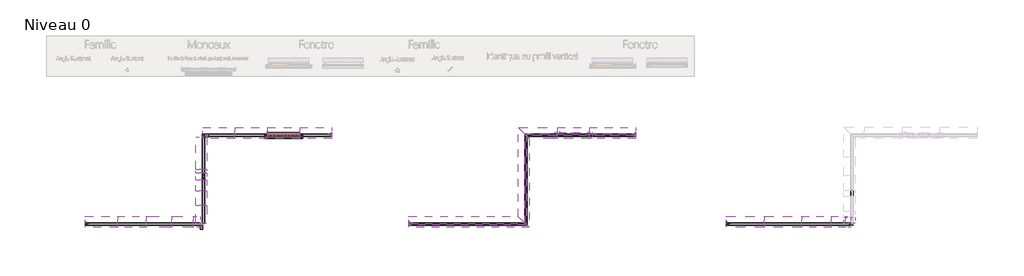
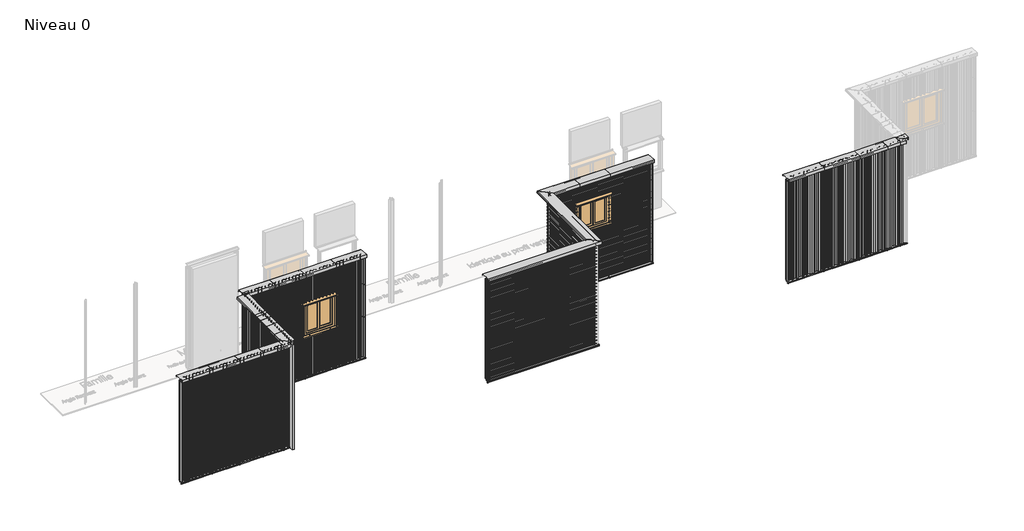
# One storey, part 1 of 11: 67 members, 42 plates, 2 doors.
"""IFC4 building model written with IfcOpenShell, lengths in millimetres."""

from ifc_helpers import new_model, si_unit, origin, place, context, project, spatial, transform, mapped, element, save
from components import door_f6b7c099, door_ad10fda7, meneau_rectangulaire_2bebc640, meneau_rectangulaire_74061857, meneau_rectangulaire_0b3fcaf2, meneau_rectangulaire_f8511e98, meneau_rectangulaire_234a4937, meneau_rectangulaire_9a4c4fa2, meneau_rectangulaire_74fe4901, meneau_rectangulaire_228527b8, meneau_rectangulaire_81b4417d, meneau_rectangulaire_4563ac0a, meneau_rectangulaire_b0ad7b53, meneau_rectangulaire_1c964cb5, meneau_rectangulaire_b7cbe6b9, meneau_rectangulaire_bas_de_facade_284a9909, meneau_rectangulaire_bas_de_facade_a4c04e45, meneau_rectangulaire_bas_de_facade_ff95f192, meneau_rectangulaire_bas_de_facade_054009f9, meneau_rectangulaire_bas_de_facade_311af115, meneau_rectangulaire_bas_de_facade_9cba7d50, meneau_rectangulaire_bas_de_facade_59c8f768, meneau_rectangulaire_bas_de_facade_44356cba, meneau_rectangulaire_bas_de_facade_2cf6ae8b, meneau_rectangulaire_bas_de_facade_72f859a9, meneau_rectangulaire_bas_de_facade_c1fa5701, meneau_rectangulaire_bas_de_facade_98fc15e4, meneau_rectangulaire_bas_de_facade_a9f17a1e, meneau_rectangulaire_bas_de_facade_e63c7c5e, meneau_rectangulaire_bas_de_facade_b4e37a96, meneau_rectangulaire_bas_de_facade_f80a6144, meneau_rectangulaire_bas_de_facade_e72d7a95, meneau_rectangulaire_bas_de_facade_734854f8, meneau_rectangulaire_bas_de_facade_7ae9e72d, meneau_rectangulaire_bas_de_facade_b41b154c, meneau_rectangulaire_bas_de_facade_d3af828c, meneau_rectangulaire_bas_de_facade_46bd9526, meneau_rectangulaire_bas_de_facade_17f7cb37, meneau_rectangulaire_bas_de_facade_3b4feb22, meneau_rectangulaire_bas_de_facade_ae91a431, meneau_rectangulaire_bas_de_facade_f12c9721, meneau_rectangulaire_haut_de_facade_66ae83b7, meneau_rectangulaire_haut_de_facade_281e57f9, meneau_rectangulaire_haut_de_facade_87188652, meneau_rectangulaire_haut_de_facade_c783611b, meneau_rectangulaire_haut_de_facade_64e329c6, meneau_rectangulaire_haut_de_facade_83064606, meneau_rectangulaire_haut_de_facade_1aad9aea, meneau_rectangulaire_haut_de_facade_f870d6d4, meneau_rectangulaire_haut_de_facade_93e36293, meneau_rectangulaire_haut_de_facade_76262e20, meneau_rectangulaire_haut_de_facade_b5049156, meneau_rectangulaire_haut_de_facade_82e9be84, meneau_rectangulaire_haut_de_facade_4f6a63c8, meneau_rectangulaire_haut_de_facade_6f5ed1bf, meneau_rectangulaire_haut_de_facade_54da1b67, meneau_rectangulaire_haut_de_facade_0304e728, meneau_rectangulaire_haut_de_facade_c206d6dd, meneau_rectangulaire_haut_de_facade_d7324de5, meneau_rectangulaire_haut_de_facade_496d0ec1, meneau_rectangulaire_haut_de_facade_f00e65dc, meneau_rectangulaire_haut_de_facade_56239176, meneau_rectangulaire_haut_de_facade_942a833c, meneau_rectangulaire_haut_de_facade_ec6043b4, plate_0610edab, plate_9b340332, plate_57fa1317, plate_ab0b9b8b, plate_88216186, plate_702065da, plate_73b56dba, plate_2df18c28, plate_fa579688, plate_f2230e5b, plate_4fb3facb, plate_f928da12, plate_37e8111f, plate_b97943db, plate_8fd588ca, plate_c28b94aa, plate_0c2ce887, plate_6dec1907, plate_eb89862b, plate_4afa8736, plate_47d247f7, plate_cc2e4fbd, plate_bd072c15, plate_e1f37148, plate_14de64b7, plate_46ab9c88, plate_14376bf1, plate_61971956, plate_02203c13, plate_2c54484f, plate_c95ae0e2, plate_9ac5e7aa, plate_9f5fbec9, plate_852c840c, vide_9c2dc285, vide_b6a19ed5

model = new_model("IFC4")

# Units and contexts
model_context = context("Model", 3, world=origin())
ifc_project = project(units=[si_unit("LENGTHUNIT", "METRE", prefix="MILLI")], contexts=[model_context])

# Site, building, storey
site = spatial("IfcSite", under=ifc_project)
building = spatial("IfcBuilding", under=site)
storey = spatial("IfcBuildingStorey", under=building, Name="Niveau 0", Elevation=0.0)

# Doors
placement = place(None, origin())
door_shape = door_f6b7c099(model_context)
element("IfcDoor", 1, ObjectType="Fenetre pour Tenda V : Fenetre pour Tenda V", at=placement, inside=storey, context=model_context, shape_type="MappedRepresentation", body=[
    mapped(door_shape, transform((5862.5542845, -16885.8319197, 1160.0), x_axis=(1.0, 0.0, 0.0), y_axis=(0.0, 1.0, 0.0), z_axis=(0.0, 0.0, 1.0))),
])
door_2_shape = door_ad10fda7(model_context)
element("IfcDoor", 2, ObjectType="Fenetre pour Tenda Horizontal : Fenetre pour Tenda H", at=placement, inside=storey, context=model_context, shape_type="MappedRepresentation", body=[
    mapped(door_2_shape, transform((13017.2416384, -16885.8319197, 1513.0), x_axis=(-1.0, 0.0, 0.0), y_axis=(0.0, -1.0, 0.0), z_axis=(0.0, 0.0, 1.0))),
])

# Members
meneau_rectangulaire_shape = meneau_rectangulaire_2bebc640(model_context)
element("IfcMember", 3, ObjectType="Meneau rectangulaire : Jonction contre mur Droite V", at=placement, inside=storey, context=model_context, shape_type="MappedRepresentation", body=[
    mapped(meneau_rectangulaire_shape, transform((963.0369394, -19085.8319197, 2819.0), x_axis=(-1.0, 0.0, 0.0), y_axis=(0.0, -1.0, 0.0), z_axis=(0.0, 0.0, 1.0))),
])
meneau_rectangulaire_2_shape = meneau_rectangulaire_74061857(model_context)
element("IfcMember", 4, ObjectType="Meneau rectangulaire : Jonction contre mur Gauche V", at=placement, inside=storey, context=model_context, shape_type="MappedRepresentation", body=[
    mapped(meneau_rectangulaire_2_shape, transform((7053.4302493, -16885.8319197, 2060.0), x_axis=(1.0, 0.0, 0.0), y_axis=(0.0, -1.0, 0.0), z_axis=(0.0, 0.0, -1.0))),
])
meneau_rectangulaire_3_shape = meneau_rectangulaire_0b3fcaf2(model_context)
element("IfcMember", 5, ObjectType="Meneau rectangulaire : Jonction contre mur Droite H", at=placement, inside=storey, context=model_context, shape_type="MappedRepresentation", body=[
    mapped(meneau_rectangulaire_3_shape, transform((14557.2416384, -16885.8319197, 2314.0), x_axis=(1.0, 0.0, 0.0), y_axis=(0.0, 1.0, 0.0), z_axis=(0.0, 0.0, 1.0))),
])
element("IfcMember", 6, ObjectType="Meneau rectangulaire : Jonction contre mur Droite H", at=placement, inside=storey, context=model_context, shape_type="MappedRepresentation", body=[
    mapped(meneau_rectangulaire_3_shape, transform((14557.2416384, -16885.8319197, 1513.0), x_axis=(1.0, 0.0, 0.0), y_axis=(0.0, 1.0, 0.0), z_axis=(0.0, 0.0, 1.0))),
])
meneau_rectangulaire_4_shape = meneau_rectangulaire_f8511e98(model_context)
element("IfcMember", 7, ObjectType="Meneau rectangulaire : Jonction contre mur Gauche V", at=placement, inside=storey, context=model_context, shape_type="MappedRepresentation", body=[
    mapped(meneau_rectangulaire_4_shape, transform((7053.4302493, -16885.8319197, 57.8548383), x_axis=(1.0, 0.0, 0.0), y_axis=(0.0, -1.0, 0.0), z_axis=(0.0, 0.0, -1.0))),
])
meneau_rectangulaire_5_shape = meneau_rectangulaire_234a4937(model_context)
element("IfcMember", 8, ObjectType="Meneau rectangulaire : Jonction contre mur Gauche V", at=placement, inside=storey, context=model_context, shape_type="MappedRepresentation", body=[
    mapped(meneau_rectangulaire_5_shape, transform((7053.4302493, -16885.8319197, 1160.0), x_axis=(1.0, 0.0, 0.0), y_axis=(0.0, -1.0, 0.0), z_axis=(0.0, 0.0, -1.0))),
])
meneau_rectangulaire_6_shape = meneau_rectangulaire_9a4c4fa2(model_context)
element("IfcMember", 9, ObjectType="Meneau rectangulaire : Jonction contre mur Gauche V", at=placement, inside=storey, context=model_context, shape_type="MappedRepresentation", body=[
    mapped(meneau_rectangulaire_6_shape, transform((16799.5725557, -19085.8319197, 57.8548383), x_axis=(-1.0, 0.0, 0.0), y_axis=(0.0, 1.0, 0.0), z_axis=(0.0, 0.0, -1.0))),
])
meneau_rectangulaire_7_shape = meneau_rectangulaire_74fe4901(model_context)
element("IfcMember", 10, ObjectType="Meneau rectangulaire : Jonction contre mur Gauche H", at=placement, inside=storey, context=model_context, shape_type="MappedRepresentation", body=[
    mapped(meneau_rectangulaire_7_shape, transform((8959.5725557, -19085.8319197, 1513.0), x_axis=(-1.0, 0.0, 0.0), y_axis=(0.0, 1.0, 0.0), z_axis=(0.0, 0.0, -1.0))),
])
meneau_rectangulaire_8_shape = meneau_rectangulaire_228527b8(model_context)
element("IfcMember", 11, ObjectType="Meneau rectangulaire : Jonction contre mur Gauche H", at=placement, inside=storey, context=model_context, shape_type="MappedRepresentation", body=[
    mapped(meneau_rectangulaire_8_shape, transform((8959.5725557, -19085.8319197, 2136.0), x_axis=(-1.0, 0.0, 0.0), y_axis=(0.0, 1.0, 0.0), z_axis=(0.0, 0.0, -1.0))),
])
meneau_rectangulaire_9_shape = meneau_rectangulaire_81b4417d(model_context)
element("IfcMember", 12, ObjectType="Meneau rectangulaire : Jonction contre mur Gauche H", at=placement, inside=storey, context=model_context, shape_type="MappedRepresentation", body=[
    mapped(meneau_rectangulaire_9_shape, transform((8959.5725557, -19085.8319197, 2670.0), x_axis=(-1.0, 0.0, 0.0), y_axis=(0.0, 1.0, 0.0), z_axis=(0.0, 0.0, -1.0))),
])
meneau_rectangulaire_10_shape = meneau_rectangulaire_4563ac0a(model_context)
element("IfcMember", 13, ObjectType="Meneau rectangulaire : Jonction contre mur Gauche H", at=placement, inside=storey, context=model_context, shape_type="MappedRepresentation", body=[
    mapped(meneau_rectangulaire_10_shape, transform((8959.5725557, -19085.8319197, 801.0), x_axis=(-1.0, 0.0, 0.0), y_axis=(0.0, 1.0, 0.0), z_axis=(0.0, 0.0, -1.0))),
])
meneau_rectangulaire_11_shape = meneau_rectangulaire_b0ad7b53(model_context)
element("IfcMember", 14, ObjectType="Meneau rectangulaire : Jonction contre mur Gauche H", at=placement, inside=storey, context=model_context, shape_type="MappedRepresentation", body=[
    mapped(meneau_rectangulaire_11_shape, transform((8959.5725557, -19085.8319197, 57.8548383), x_axis=(-1.0, 0.0, 0.0), y_axis=(0.0, 1.0, 0.0), z_axis=(0.0, 0.0, -1.0))),
])
meneau_rectangulaire_12_shape = meneau_rectangulaire_1c964cb5(model_context)
element("IfcMember", 15, ObjectType="Meneau rectangulaire : Jonction contre mur Droite H", at=placement, inside=storey, context=model_context, shape_type="MappedRepresentation", body=[
    mapped(meneau_rectangulaire_12_shape, transform((14557.2416384, -16885.8319197, 712.0), x_axis=(1.0, 0.0, 0.0), y_axis=(0.0, 1.0, 0.0), z_axis=(0.0, 0.0, 1.0))),
])
meneau_rectangulaire_13_shape = meneau_rectangulaire_b7cbe6b9(model_context)
element("IfcMember", 16, ObjectType="Meneau rectangulaire : Jonction contre mur Droite H", at=placement, inside=storey, context=model_context, shape_type="MappedRepresentation", body=[
    mapped(meneau_rectangulaire_13_shape, transform((14557.2416384, -16885.8319197, 2819.0), x_axis=(1.0, 0.0, 0.0), y_axis=(0.0, 1.0, 0.0), z_axis=(0.0, 0.0, 1.0))),
])
meneau_rectangulaire_bas_de_facade_shape = meneau_rectangulaire_bas_de_facade_284a9909(model_context)
element("IfcMember", 17, ObjectType="Meneau rectangulaire : Bas de facade", at=placement, inside=storey, context=model_context, shape_type="MappedRepresentation", body=[
    mapped(meneau_rectangulaire_bas_de_facade_shape, transform((13417.2416384, -16885.8319197, 0.0), x_axis=(0.0, 0.0, -1.0), y_axis=(0.0, 1.0, 0.0), z_axis=(1.0, 0.0, 0.0))),
])
meneau_rectangulaire_bas_de_facade_2_shape = meneau_rectangulaire_bas_de_facade_a4c04e45(model_context)
element("IfcMember", 18, ObjectType="Meneau rectangulaire : Bas de facade", at=placement, inside=storey, context=model_context, shape_type="MappedRepresentation", body=[
    mapped(meneau_rectangulaire_bas_de_facade_2_shape, transform((4661.0542845, -16885.8319197, 0.0), x_axis=(0.0, 0.0, -1.0), y_axis=(0.0, -1.0, 0.0), z_axis=(-1.0, 0.0, 0.0))),
])
element("IfcMember", 19, ObjectType="Meneau rectangulaire : Bas de facade", at=placement, inside=storey, context=model_context, shape_type="MappedRepresentation", body=[
    mapped(meneau_rectangulaire_bas_de_facade_2_shape, transform((5462.0542845, -16885.8319197, 0.0), x_axis=(0.0, 0.0, -1.0), y_axis=(0.0, -1.0, 0.0), z_axis=(-1.0, 0.0, 0.0))),
])
meneau_rectangulaire_bas_de_facade_3_shape = meneau_rectangulaire_bas_de_facade_ff95f192(model_context)
element("IfcMember", 20, ObjectType="Meneau rectangulaire : Bas de facade", at=placement, inside=storey, context=model_context, shape_type="MappedRepresentation", body=[
    mapped(meneau_rectangulaire_bas_de_facade_3_shape, transform((18659.5725557, -19085.8319197, 0.0), x_axis=(0.0, 0.0, -1.0), y_axis=(0.0, 1.0, 0.0), z_axis=(1.0, 0.0, 0.0))),
])
meneau_rectangulaire_bas_de_facade_4_shape = meneau_rectangulaire_bas_de_facade_054009f9(model_context)
element("IfcMember", 21, ObjectType="Meneau rectangulaire : Bas de facade", at=placement, inside=storey, context=model_context, shape_type="MappedRepresentation", body=[
    mapped(meneau_rectangulaire_bas_de_facade_4_shape, transform((3860.0542842, -16949.8319197, 0.0), x_axis=(0.0, 0.0, -1.0), y_axis=(-1.0, 0.0, 0.0), z_axis=(0.0, 1.0, 0.0))),
])
meneau_rectangulaire_bas_de_facade_5_shape = meneau_rectangulaire_bas_de_facade_311af115(model_context)
element("IfcMember", 22, ObjectType="Meneau rectangulaire : Bas de facade", at=placement, inside=storey, context=model_context, shape_type="MappedRepresentation", body=[
    mapped(meneau_rectangulaire_bas_de_facade_5_shape, transform((6263.0542845, -16885.8319197, 0.0), x_axis=(0.0, 0.0, -1.0), y_axis=(0.0, -1.0, 0.0), z_axis=(-1.0, 0.0, 0.0))),
])
meneau_rectangulaire_bas_de_facade_6_shape = meneau_rectangulaire_bas_de_facade_9cba7d50(model_context)
element("IfcMember", 23, ObjectType="Meneau rectangulaire : Bas de facade", at=placement, inside=storey, context=model_context, shape_type="MappedRepresentation", body=[
    mapped(meneau_rectangulaire_bas_de_facade_6_shape, transform((17731.5725557, -19085.8319197, 0.0), x_axis=(0.0, 0.0, -1.0), y_axis=(0.0, 1.0, 0.0), z_axis=(1.0, 0.0, 0.0))),
])
meneau_rectangulaire_bas_de_facade_7_shape = meneau_rectangulaire_bas_de_facade_59c8f768(model_context)
element("IfcMember", 24, ObjectType="Meneau rectangulaire : Bas de facade", at=placement, inside=storey, context=model_context, shape_type="MappedRepresentation", body=[
    mapped(meneau_rectangulaire_bas_de_facade_7_shape, transform((963.0369394, -19085.8319197, 0.0), x_axis=(0.0, 0.0, -1.0), y_axis=(0.0, -1.0, 0.0), z_axis=(-1.0, 0.0, 0.0))),
])
meneau_rectangulaire_bas_de_facade_8_shape = meneau_rectangulaire_bas_de_facade_44356cba(model_context)
element("IfcMember", 25, ObjectType="Meneau rectangulaire : Bas de facade", at=placement, inside=storey, context=model_context, shape_type="MappedRepresentation", body=[
    mapped(meneau_rectangulaire_bas_de_facade_8_shape, transform((14557.2416384, -16885.8319197, 0.0), x_axis=(0.0, 0.0, -1.0), y_axis=(0.0, 1.0, 0.0), z_axis=(1.0, 0.0, 0.0))),
])
meneau_rectangulaire_bas_de_facade_9_shape = meneau_rectangulaire_bas_de_facade_2cf6ae8b(model_context)
element("IfcMember", 26, ObjectType="Meneau rectangulaire : Bas de facade", at=placement, inside=storey, context=model_context, shape_type="MappedRepresentation", body=[
    mapped(meneau_rectangulaire_bas_de_facade_9_shape, transform((12617.2416384, -16885.8319197, 0.0), x_axis=(0.0, 0.0, -1.0), y_axis=(0.0, 1.0, 0.0), z_axis=(1.0, 0.0, 0.0))),
])
meneau_rectangulaire_bas_de_facade_10_shape = meneau_rectangulaire_bas_de_facade_72f859a9(model_context)
element("IfcMember", 27, ObjectType="Meneau rectangulaire : Bas de facade", at=placement, inside=storey, context=model_context, shape_type="MappedRepresentation", body=[
    mapped(meneau_rectangulaire_bas_de_facade_10_shape, transform((11824.5725557, -19085.8319197, 0.0), x_axis=(0.0, 0.0, -1.0), y_axis=(1.0, 0.0, 0.0), z_axis=(0.0, -1.0, 0.0))),
])
meneau_rectangulaire_bas_de_facade_11_shape = meneau_rectangulaire_bas_de_facade_c1fa5701(model_context)
element("IfcMember", 28, ObjectType="Meneau rectangulaire : Bas de facade", at=placement, inside=storey, context=model_context, shape_type="MappedRepresentation", body=[
    mapped(meneau_rectangulaire_bas_de_facade_11_shape, transform((11824.5725557, -19085.8319197, 0.0), x_axis=(0.0, 0.0, -1.0), y_axis=(0.0, 1.0, 0.0), z_axis=(1.0, 0.0, 0.0))),
])
meneau_rectangulaire_bas_de_facade_12_shape = meneau_rectangulaire_bas_de_facade_98fc15e4(model_context)
element("IfcMember", 29, ObjectType="Meneau rectangulaire : Bas de facade", at=placement, inside=storey, context=model_context, shape_type="MappedRepresentation", body=[
    mapped(meneau_rectangulaire_bas_de_facade_12_shape, transform((1764.0369397, -19085.8319197, 0.0), x_axis=(0.0, 0.0, -1.0), y_axis=(0.0, -1.0, 0.0), z_axis=(-1.0, 0.0, 0.0))),
])
meneau_rectangulaire_bas_de_facade_13_shape = meneau_rectangulaire_bas_de_facade_a9f17a1e(model_context)
element("IfcMember", 30, ObjectType="Meneau rectangulaire : Bas de facade", at=placement, inside=storey, context=model_context, shape_type="MappedRepresentation", body=[
    mapped(meneau_rectangulaire_bas_de_facade_13_shape, transform((2476.0369397, -19085.8319197, 0.0), x_axis=(0.0, 0.0, -1.0), y_axis=(0.0, -1.0, 0.0), z_axis=(-1.0, 0.0, 0.0))),
])
meneau_rectangulaire_bas_de_facade_14_shape = meneau_rectangulaire_bas_de_facade_e63c7c5e(model_context)
element("IfcMember", 31, ObjectType="Meneau rectangulaire : Bas de facade", at=placement, inside=storey, context=model_context, shape_type="MappedRepresentation", body=[
    mapped(meneau_rectangulaire_bas_de_facade_14_shape, transform((3099.0369397, -19085.8319197, 0.0), x_axis=(0.0, 0.0, -1.0), y_axis=(0.0, -1.0, 0.0), z_axis=(-1.0, 0.0, 0.0))),
])
meneau_rectangulaire_bas_de_facade_15_shape = meneau_rectangulaire_bas_de_facade_b4e37a96(model_context)
element("IfcMember", 32, ObjectType="Meneau rectangulaire : Bas de facade", at=placement, inside=storey, context=model_context, shape_type="MappedRepresentation", body=[
    mapped(meneau_rectangulaire_bas_de_facade_15_shape, transform((3860.0542842, -18640.8319197, 0.0), x_axis=(0.0, 0.0, -1.0), y_axis=(-1.0, 0.0, 0.0), z_axis=(0.0, 1.0, 0.0))),
])
meneau_rectangulaire_bas_de_facade_16_shape = meneau_rectangulaire_bas_de_facade_f80a6144(model_context)
element("IfcMember", 33, ObjectType="Meneau rectangulaire : Bas de facade", at=placement, inside=storey, context=model_context, shape_type="MappedRepresentation", body=[
    mapped(meneau_rectangulaire_bas_de_facade_16_shape, transform((3860.0542842, -18284.8319197, 0.0), x_axis=(0.0, 0.0, -1.0), y_axis=(-1.0, 0.0, 0.0), z_axis=(0.0, 1.0, 0.0))),
])
meneau_rectangulaire_bas_de_facade_17_shape = meneau_rectangulaire_bas_de_facade_e72d7a95(model_context)
element("IfcMember", 34, ObjectType="Meneau rectangulaire : Bas de facade", at=placement, inside=storey, context=model_context, shape_type="MappedRepresentation", body=[
    mapped(meneau_rectangulaire_bas_de_facade_17_shape, transform((3860.0542842, -18017.8319197, 0.0), x_axis=(0.0, 0.0, -1.0), y_axis=(-1.0, 0.0, 0.0), z_axis=(0.0, 1.0, 0.0))),
])
meneau_rectangulaire_bas_de_facade_18_shape = meneau_rectangulaire_bas_de_facade_734854f8(model_context)
element("IfcMember", 35, ObjectType="Meneau rectangulaire : Bas de facade", at=placement, inside=storey, context=model_context, shape_type="MappedRepresentation", body=[
    mapped(meneau_rectangulaire_bas_de_facade_18_shape, transform((3860.0542842, -17839.8319197, 0.0), x_axis=(0.0, 0.0, -1.0), y_axis=(-1.0, 0.0, 0.0), z_axis=(0.0, 1.0, 0.0))),
])
meneau_rectangulaire_bas_de_facade_19_shape = meneau_rectangulaire_bas_de_facade_7ae9e72d(model_context)
element("IfcMember", 36, ObjectType="Meneau rectangulaire : Bas de facade", at=placement, inside=storey, context=model_context, shape_type="MappedRepresentation", body=[
    mapped(meneau_rectangulaire_bas_de_facade_19_shape, transform((3860.0542842, -17750.8319197, 0.0), x_axis=(0.0, 0.0, -1.0), y_axis=(-1.0, 0.0, 0.0), z_axis=(0.0, 1.0, 0.0))),
])
meneau_rectangulaire_bas_de_facade_20_shape = meneau_rectangulaire_bas_de_facade_b41b154c(model_context)
element("IfcMember", 37, ObjectType="Meneau rectangulaire : Bas de facade", at=placement, inside=storey, context=model_context, shape_type="MappedRepresentation", body=[
    mapped(meneau_rectangulaire_bas_de_facade_20_shape, transform((3860.0542842, -16885.8319197, 0.0), x_axis=(0.0, 0.0, -1.0), y_axis=(0.0, -1.0, 0.0), z_axis=(-1.0, 0.0, 0.0))),
])
meneau_rectangulaire_bas_de_facade_21_shape = meneau_rectangulaire_bas_de_facade_d3af828c(model_context)
element("IfcMember", 38, ObjectType="Meneau rectangulaire : Bas de facade", at=placement, inside=storey, context=model_context, shape_type="MappedRepresentation", body=[
    mapped(meneau_rectangulaire_bas_de_facade_21_shape, transform((3860.0542842, -16885.8319197, 0.0), x_axis=(0.0, 0.0, -1.0), y_axis=(-1.0, 0.0, 0.0), z_axis=(0.0, 1.0, 0.0))),
])
meneau_rectangulaire_bas_de_facade_22_shape = meneau_rectangulaire_bas_de_facade_46bd9526(model_context)
element("IfcMember", 39, ObjectType="Meneau rectangulaire : Bas de facade", at=placement, inside=storey, context=model_context, shape_type="MappedRepresentation", body=[
    mapped(meneau_rectangulaire_bas_de_facade_22_shape, transform((3633.0369397, -19085.8319197, 0.0), x_axis=(0.0, 0.0, -1.0), y_axis=(0.0, -1.0, 0.0), z_axis=(-1.0, 0.0, 0.0))),
])
meneau_rectangulaire_bas_de_facade_23_shape = meneau_rectangulaire_bas_de_facade_17f7cb37(model_context)
element("IfcMember", 40, ObjectType="Meneau rectangulaire : Bas de facade", at=placement, inside=storey, context=model_context, shape_type="MappedRepresentation", body=[
    mapped(meneau_rectangulaire_bas_de_facade_23_shape, transform((19387.5725557, -19085.8319197, 0.0), x_axis=(0.0, 0.0, -1.0), y_axis=(0.0, 1.0, 0.0), z_axis=(1.0, 0.0, 0.0))),
])
meneau_rectangulaire_bas_de_facade_24_shape = meneau_rectangulaire_bas_de_facade_3b4feb22(model_context)
element("IfcMember", 41, ObjectType="Meneau rectangulaire : Bas de facade", at=placement, inside=storey, context=model_context, shape_type="MappedRepresentation", body=[
    mapped(meneau_rectangulaire_bas_de_facade_24_shape, transform((19729.5725557, -19085.8319197, 0.0), x_axis=(0.0, 0.0, -1.0), y_axis=(0.0, 1.0, 0.0), z_axis=(1.0, 0.0, 0.0))),
])
meneau_rectangulaire_bas_de_facade_25_shape = meneau_rectangulaire_bas_de_facade_ae91a431(model_context)
element("IfcMember", 42, ObjectType="Meneau rectangulaire : Bas de facade", at=placement, inside=storey, context=model_context, shape_type="MappedRepresentation", body=[
    mapped(meneau_rectangulaire_bas_de_facade_25_shape, transform((19874.5725557, -18275.8730274, 0.0), x_axis=(0.0, 0.0, -1.0), y_axis=(-1.0, 0.0, 0.0), z_axis=(0.0, 1.0, 0.0))),
])
meneau_rectangulaire_bas_de_facade_26_shape = meneau_rectangulaire_bas_de_facade_f12c9721(model_context)
element("IfcMember", 43, ObjectType="Meneau rectangulaire : Bas de facade", at=placement, inside=storey, context=model_context, shape_type="MappedRepresentation", body=[
    mapped(meneau_rectangulaire_bas_de_facade_26_shape, transform((19874.5725557, -19085.8319197, 0.0), x_axis=(0.0, 0.0, -1.0), y_axis=(0.0, 1.0, 0.0), z_axis=(1.0, 0.0, 0.0))),
])
meneau_rectangulaire_haut_de_facade_shape = meneau_rectangulaire_haut_de_facade_66ae83b7(model_context)
element("IfcMember", 44, ObjectType="Meneau rectangulaire : Haut de facade", at=placement, inside=storey, context=model_context, shape_type="MappedRepresentation", body=[
    mapped(meneau_rectangulaire_haut_de_facade_shape, transform((3810.0542842, -19085.8319197, 2900.0), x_axis=(0.0, 0.0, 1.0), y_axis=(0.0, -1.0, 0.0), z_axis=(1.0, 0.0, 0.0))),
])
meneau_rectangulaire_haut_de_facade_2_shape = meneau_rectangulaire_haut_de_facade_281e57f9(model_context)
element("IfcMember", 45, ObjectType="Meneau rectangulaire : Haut de facade", at=placement, inside=storey, context=model_context, shape_type="MappedRepresentation", body=[
    mapped(meneau_rectangulaire_haut_de_facade_2_shape, transform((3633.0369397, -19085.8319197, 2900.0), x_axis=(0.0, 0.0, 1.0), y_axis=(0.0, -1.0, 0.0), z_axis=(1.0, 0.0, 0.0))),
])
meneau_rectangulaire_haut_de_facade_3_shape = meneau_rectangulaire_haut_de_facade_87188652(model_context)
element("IfcMember", 46, ObjectType="Meneau rectangulaire : Haut de facade", at=placement, inside=storey, context=model_context, shape_type="MappedRepresentation", body=[
    mapped(meneau_rectangulaire_haut_de_facade_3_shape, transform((3099.0369397, -19085.8319197, 2900.0), x_axis=(0.0, 0.0, 1.0), y_axis=(0.0, -1.0, 0.0), z_axis=(1.0, 0.0, 0.0))),
])
meneau_rectangulaire_haut_de_facade_4_shape = meneau_rectangulaire_haut_de_facade_c783611b(model_context)
element("IfcMember", 47, ObjectType="Meneau rectangulaire : Haut de facade", at=placement, inside=storey, context=model_context, shape_type="MappedRepresentation", body=[
    mapped(meneau_rectangulaire_haut_de_facade_4_shape, transform((2476.0369397, -19085.8319197, 2900.0), x_axis=(0.0, 0.0, 1.0), y_axis=(0.0, -1.0, 0.0), z_axis=(1.0, 0.0, 0.0))),
])
meneau_rectangulaire_haut_de_facade_5_shape = meneau_rectangulaire_haut_de_facade_64e329c6(model_context)
element("IfcMember", 48, ObjectType="Meneau rectangulaire : Haut de facade", at=placement, inside=storey, context=model_context, shape_type="MappedRepresentation", body=[
    mapped(meneau_rectangulaire_haut_de_facade_5_shape, transform((1764.0369397, -19085.8319197, 2900.0), x_axis=(0.0, 0.0, 1.0), y_axis=(0.0, -1.0, 0.0), z_axis=(1.0, 0.0, 0.0))),
])
meneau_rectangulaire_haut_de_facade_6_shape = meneau_rectangulaire_haut_de_facade_83064606(model_context)
element("IfcMember", 49, ObjectType="Meneau rectangulaire : Haut de facade", at=placement, inside=storey, context=model_context, shape_type="MappedRepresentation", body=[
    mapped(meneau_rectangulaire_haut_de_facade_6_shape, transform((3860.0542842, -17750.8319197, 2900.0), x_axis=(0.0, 0.0, 1.0), y_axis=(-1.0, 0.0, 0.0), z_axis=(0.0, -1.0, 0.0))),
])
meneau_rectangulaire_haut_de_facade_7_shape = meneau_rectangulaire_haut_de_facade_1aad9aea(model_context)
element("IfcMember", 50, ObjectType="Meneau rectangulaire : Haut de facade", at=placement, inside=storey, context=model_context, shape_type="MappedRepresentation", body=[
    mapped(meneau_rectangulaire_haut_de_facade_7_shape, transform((3860.0542842, -17839.8319197, 2900.0), x_axis=(0.0, 0.0, 1.0), y_axis=(-1.0, 0.0, 0.0), z_axis=(0.0, -1.0, 0.0))),
])
meneau_rectangulaire_haut_de_facade_8_shape = meneau_rectangulaire_haut_de_facade_f870d6d4(model_context)
element("IfcMember", 51, ObjectType="Meneau rectangulaire : Haut de facade", at=placement, inside=storey, context=model_context, shape_type="MappedRepresentation", body=[
    mapped(meneau_rectangulaire_haut_de_facade_8_shape, transform((3860.0542842, -18017.8319197, 2900.0), x_axis=(0.0, 0.0, 1.0), y_axis=(-1.0, 0.0, 0.0), z_axis=(0.0, -1.0, 0.0))),
])
meneau_rectangulaire_haut_de_facade_9_shape = meneau_rectangulaire_haut_de_facade_93e36293(model_context)
element("IfcMember", 52, ObjectType="Meneau rectangulaire : Haut de facade", at=placement, inside=storey, context=model_context, shape_type="MappedRepresentation", body=[
    mapped(meneau_rectangulaire_haut_de_facade_9_shape, transform((3860.0542842, -18640.8319197, 2900.0), x_axis=(0.0, 0.0, 1.0), y_axis=(-1.0, 0.0, 0.0), z_axis=(0.0, -1.0, 0.0))),
])
meneau_rectangulaire_haut_de_facade_10_shape = meneau_rectangulaire_haut_de_facade_76262e20(model_context)
element("IfcMember", 53, ObjectType="Meneau rectangulaire : Haut de facade", at=placement, inside=storey, context=model_context, shape_type="MappedRepresentation", body=[
    mapped(meneau_rectangulaire_haut_de_facade_10_shape, transform((3860.0542842, -18284.8319197, 2900.0), x_axis=(0.0, 0.0, 1.0), y_axis=(-1.0, 0.0, 0.0), z_axis=(0.0, -1.0, 0.0))),
])
meneau_rectangulaire_haut_de_facade_11_shape = meneau_rectangulaire_haut_de_facade_b5049156(model_context)
element("IfcMember", 54, ObjectType="Meneau rectangulaire : Haut de facade", at=placement, inside=storey, context=model_context, shape_type="MappedRepresentation", body=[
    mapped(meneau_rectangulaire_haut_de_facade_11_shape, transform((3860.0542842, -19085.8319197, 2900.0), x_axis=(0.0, 0.0, 1.0), y_axis=(-1.0, 0.0, 0.0), z_axis=(0.0, -1.0, 0.0))),
])
element("IfcMember", 55, ObjectType="Meneau rectangulaire : Haut de facade", at=placement, inside=storey, context=model_context, shape_type="MappedRepresentation", body=[
    mapped(meneau_rectangulaire_haut_de_facade_5_shape, transform((4661.0542845, -16885.8319197, 2900.0), x_axis=(0.0, 0.0, 1.0), y_axis=(0.0, -1.0, 0.0), z_axis=(1.0, 0.0, 0.0))),
])
meneau_rectangulaire_haut_de_facade_12_shape = meneau_rectangulaire_haut_de_facade_82e9be84(model_context)
element("IfcMember", 56, ObjectType="Meneau rectangulaire : Haut de facade", at=placement, inside=storey, context=model_context, shape_type="MappedRepresentation", body=[
    mapped(meneau_rectangulaire_haut_de_facade_12_shape, transform((5462.0542845, -16885.8319197, 2900.0), x_axis=(0.0, 0.0, 1.0), y_axis=(0.0, -1.0, 0.0), z_axis=(1.0, 0.0, 0.0))),
])
element("IfcMember", 57, ObjectType="Meneau rectangulaire : Haut de facade", at=placement, inside=storey, context=model_context, shape_type="MappedRepresentation", body=[
    mapped(meneau_rectangulaire_haut_de_facade_12_shape, transform((6263.0542845, -16885.8319197, 2900.0), x_axis=(0.0, 0.0, 1.0), y_axis=(0.0, -1.0, 0.0), z_axis=(1.0, 0.0, 0.0))),
])
meneau_rectangulaire_haut_de_facade_13_shape = meneau_rectangulaire_haut_de_facade_4f6a63c8(model_context)
element("IfcMember", 58, ObjectType="Meneau rectangulaire : Haut de facade", at=placement, inside=storey, context=model_context, shape_type="MappedRepresentation", body=[
    mapped(meneau_rectangulaire_haut_de_facade_13_shape, transform((7053.4302493, -16885.8319197, 2900.0), x_axis=(0.0, 0.0, 1.0), y_axis=(0.0, -1.0, 0.0), z_axis=(1.0, 0.0, 0.0))),
])
meneau_rectangulaire_haut_de_facade_14_shape = meneau_rectangulaire_haut_de_facade_6f5ed1bf(model_context)
element("IfcMember", 59, ObjectType="Meneau rectangulaire : Haut de facade", at=placement, inside=storey, context=model_context, shape_type="MappedRepresentation", body=[
    mapped(meneau_rectangulaire_haut_de_facade_14_shape, transform((12617.2416384, -16885.8319197, 2900.0), x_axis=(0.0, 0.0, 1.0), y_axis=(0.0, 1.0, 0.0), z_axis=(-1.0, 0.0, 0.0))),
])
meneau_rectangulaire_haut_de_facade_15_shape = meneau_rectangulaire_haut_de_facade_54da1b67(model_context)
element("IfcMember", 60, ObjectType="Meneau rectangulaire : Haut de facade", at=placement, inside=storey, context=model_context, shape_type="MappedRepresentation", body=[
    mapped(meneau_rectangulaire_haut_de_facade_15_shape, transform((17731.5725557, -19085.8319197, 2900.0), x_axis=(0.0, 0.0, 1.0), y_axis=(0.0, 1.0, 0.0), z_axis=(-1.0, 0.0, 0.0))),
])
meneau_rectangulaire_haut_de_facade_16_shape = meneau_rectangulaire_haut_de_facade_0304e728(model_context)
element("IfcMember", 61, ObjectType="Meneau rectangulaire : Haut de facade", at=placement, inside=storey, context=model_context, shape_type="MappedRepresentation", body=[
    mapped(meneau_rectangulaire_haut_de_facade_16_shape, transform((16799.5725557, -19085.8319197, 2900.0), x_axis=(0.0, 0.0, 1.0), y_axis=(0.0, 1.0, 0.0), z_axis=(-1.0, 0.0, 0.0))),
])
meneau_rectangulaire_haut_de_facade_17_shape = meneau_rectangulaire_haut_de_facade_c206d6dd(model_context)
element("IfcMember", 62, ObjectType="Meneau rectangulaire : Haut de facade", at=placement, inside=storey, context=model_context, shape_type="MappedRepresentation", body=[
    mapped(meneau_rectangulaire_haut_de_facade_17_shape, transform((13417.2416384, -16885.8319197, 2900.0), x_axis=(0.0, 0.0, 1.0), y_axis=(0.0, 1.0, 0.0), z_axis=(-1.0, 0.0, 0.0))),
])
meneau_rectangulaire_haut_de_facade_18_shape = meneau_rectangulaire_haut_de_facade_d7324de5(model_context)
element("IfcMember", 63, ObjectType="Meneau rectangulaire : Haut de facade", at=placement, inside=storey, context=model_context, shape_type="MappedRepresentation", body=[
    mapped(meneau_rectangulaire_haut_de_facade_18_shape, transform((11824.5725557, -16885.8319197, 2900.0), x_axis=(0.0, 0.0, 1.0), y_axis=(0.0, 1.0, 0.0), z_axis=(-1.0, 0.0, 0.0))),
])
meneau_rectangulaire_haut_de_facade_19_shape = meneau_rectangulaire_haut_de_facade_496d0ec1(model_context)
element("IfcMember", 64, ObjectType="Meneau rectangulaire : Haut de facade", at=placement, inside=storey, context=model_context, shape_type="MappedRepresentation", body=[
    mapped(meneau_rectangulaire_haut_de_facade_19_shape, transform((11824.5725557, -16885.8319197, 2900.0), x_axis=(0.0, 0.0, 1.0), y_axis=(1.0, 0.0, 0.0), z_axis=(0.0, 1.0, 0.0))),
])
meneau_rectangulaire_haut_de_facade_20_shape = meneau_rectangulaire_haut_de_facade_f00e65dc(model_context)
element("IfcMember", 65, ObjectType="Meneau rectangulaire : Haut de facade", at=placement, inside=storey, context=model_context, shape_type="MappedRepresentation", body=[
    mapped(meneau_rectangulaire_haut_de_facade_20_shape, transform((8959.5725557, -19085.8319197, 2900.0), x_axis=(0.0, 0.0, 1.0), y_axis=(0.0, 1.0, 0.0), z_axis=(-1.0, 0.0, 0.0))),
])
meneau_rectangulaire_haut_de_facade_21_shape = meneau_rectangulaire_haut_de_facade_56239176(model_context)
element("IfcMember", 66, ObjectType="Meneau rectangulaire : Haut de facade", at=placement, inside=storey, context=model_context, shape_type="MappedRepresentation", body=[
    mapped(meneau_rectangulaire_haut_de_facade_21_shape, transform((18659.5725557, -19085.8319197, 2900.0), x_axis=(0.0, 0.0, 1.0), y_axis=(0.0, 1.0, 0.0), z_axis=(-1.0, 0.0, 0.0))),
])
meneau_rectangulaire_haut_de_facade_22_shape = meneau_rectangulaire_haut_de_facade_942a833c(model_context)
element("IfcMember", 67, ObjectType="Meneau rectangulaire : Haut de facade", at=placement, inside=storey, context=model_context, shape_type="MappedRepresentation", body=[
    mapped(meneau_rectangulaire_haut_de_facade_22_shape, transform((19387.5725557, -19085.8319197, 2900.0), x_axis=(0.0, 0.0, 1.0), y_axis=(0.0, 1.0, 0.0), z_axis=(-1.0, 0.0, 0.0))),
])
meneau_rectangulaire_haut_de_facade_23_shape = meneau_rectangulaire_haut_de_facade_ec6043b4(model_context)
element("IfcMember", 68, ObjectType="Meneau rectangulaire : Haut de facade", at=placement, inside=storey, context=model_context, shape_type="MappedRepresentation", body=[
    mapped(meneau_rectangulaire_haut_de_facade_23_shape, transform((19874.5725557, -19085.8319197, 2900.0), x_axis=(0.0, 0.0, 1.0), y_axis=(-1.0, 0.0, 0.0), z_axis=(0.0, -1.0, 0.0))),
])
element("IfcMember", 69, ObjectType="Meneau rectangulaire : Haut de facade", at=placement, inside=storey, context=model_context, shape_type="MappedRepresentation", body=[
    mapped(meneau_rectangulaire_haut_de_facade_23_shape, transform((19729.5725557, -19085.8319197, 2900.0), x_axis=(0.0, 0.0, 1.0), y_axis=(0.0, 1.0, 0.0), z_axis=(-1.0, 0.0, 0.0))),
])

# Plates
plate_shape = plate_0610edab(model_context)
element("IfcPlate", 70, ObjectType="Regolare Vertical 712 : Regolare Vertical 712", at=placement, inside=storey, context=model_context, shape_type="MappedRepresentation", body=[
    mapped(plate_shape, transform((1411.3712605, -19085.8319197, 30.7239521), x_axis=(1.0, 0.0, 0.0), y_axis=(0.0, 1.0, 0.0), z_axis=(0.0, 0.0, 1.0))),
])
element("IfcPlate", 71, ObjectType="Regolare Vertical 712 : Regolare Vertical 712", at=placement, inside=storey, context=model_context, shape_type="MappedRepresentation", body=[
    mapped(plate_shape, transform((2120.0369397, -19085.8319197, 30.7239521), x_axis=(1.0, 0.0, 0.0), y_axis=(0.0, 1.0, 0.0), z_axis=(0.0, 0.0, 1.0))),
])
plate_2_shape = plate_9b340332(model_context)
element("IfcPlate", 72, ObjectType="Regolare Vertical 623 : Regolare Vertical 623", at=placement, inside=storey, context=model_context, shape_type="MappedRepresentation", body=[
    mapped(plate_2_shape, transform((2787.5369397, -19085.8319197, 30.7239521), x_axis=(1.0, 0.0, 0.0), y_axis=(0.0, 1.0, 0.0), z_axis=(0.0, 0.0, 1.0))),
])
plate_3_shape = plate_57fa1317(model_context)
element("IfcPlate", 73, ObjectType="Regolare Vertical 534 : Regolare Vertical 534", at=placement, inside=storey, context=model_context, shape_type="MappedRepresentation", body=[
    mapped(plate_3_shape, transform((3366.0369397, -19085.8319197, 30.7239521), x_axis=(1.0, 0.0, 0.0), y_axis=(0.0, 1.0, 0.0), z_axis=(0.0, 0.0, 1.0))),
])
plate_4_shape = plate_ab0b9b8b(model_context)
element("IfcPlate", 74, ObjectType="Regolare Vertical 178 : Regolare Vertical 178", at=placement, inside=storey, context=model_context, shape_type="MappedRepresentation", body=[
    mapped(plate_4_shape, transform((3721.545612, -19085.8319197, 30.7239521), x_axis=(1.0, 0.0, 0.0), y_axis=(0.0, 1.0, 0.0), z_axis=(0.0, 0.0, 1.0))),
])
plate_5_shape = plate_88216186(model_context)
element("IfcPlate", 75, ObjectType="Regolare Vertical 356 : Regolare Vertical 356", at=placement, inside=storey, context=model_context, shape_type="MappedRepresentation", body=[
    mapped(plate_5_shape, transform((3860.0542842, -18462.8319197, 30.7239521), x_axis=(0.0, -1.0, 0.0), y_axis=(1.0, 0.0, 0.0), z_axis=(0.0, 0.0, 1.0))),
])
plate_6_shape = plate_702065da(model_context)
element("IfcPlate", 76, ObjectType="Regolare Vertical 445 : Regolare Vertical 445", at=placement, inside=storey, context=model_context, shape_type="MappedRepresentation", body=[
    mapped(plate_6_shape, transform((3860.0542842, -18863.3319197, 30.7239521), x_axis=(0.0, -1.0, 0.0), y_axis=(1.0, 0.0, 0.0), z_axis=(0.0, 0.0, 1.0))),
])
plate_7_shape = plate_73b56dba(model_context)
element("IfcPlate", 77, ObjectType="Regolare Vertical 801 : Regolare Vertical 801", at=placement, inside=storey, context=model_context, shape_type="MappedRepresentation", body=[
    mapped(plate_7_shape, transform((3860.0542842, -18151.3319197, 30.7239521), x_axis=(0.0, -1.0, 0.0), y_axis=(1.0, 0.0, 0.0), z_axis=(0.0, 0.0, 1.0))),
])
plate_8_shape = plate_2df18c28(model_context)
element("IfcPlate", 78, ObjectType="Regolare Vertical 178 : Regolare Vertical 178", at=placement, inside=storey, context=model_context, shape_type="MappedRepresentation", body=[
    mapped(plate_8_shape, transform((3860.0542842, -17928.8319197, 30.7239521), x_axis=(0.0, -1.0, 0.0), y_axis=(1.0, 0.0, 0.0), z_axis=(0.0, 0.0, 1.0))),
])
element("IfcPlate", 79, ObjectType="Regolare Vertical 801 : Regolare Vertical 801", at=placement, inside=storey, context=model_context, shape_type="MappedRepresentation", body=[
    mapped(plate_7_shape, transform((3860.0542842, -17795.3319197, 30.7239521), x_axis=(0.0, -1.0, 0.0), y_axis=(1.0, 0.0, 0.0), z_axis=(0.0, 0.0, 1.0))),
])
plate_9_shape = plate_fa579688(model_context)
element("IfcPlate", 80, ObjectType="Regolare Vertical 801 : Regolare Vertical 801", at=placement, inside=storey, context=model_context, shape_type="MappedRepresentation", body=[
    mapped(plate_9_shape, transform((4260.5542844, -16885.8319197, 30.7239521), x_axis=(1.0, 0.0, 0.0), y_axis=(0.0, 1.0, 0.0), z_axis=(0.0, 0.0, 1.0))),
])
element("IfcPlate", 81, ObjectType="Regolare Vertical 801 : Regolare Vertical 801", at=placement, inside=storey, context=model_context, shape_type="MappedRepresentation", body=[
    mapped(plate_9_shape, transform((5061.5542845, -16885.8319197, 30.7239521), x_axis=(1.0, 0.0, 0.0), y_axis=(0.0, 1.0, 0.0), z_axis=(0.0, 0.0, 1.0))),
])
plate_10_shape = plate_f2230e5b(model_context)
element("IfcPlate", 82, ObjectType="Regolare Vertical 801 : Regolare Vertical 801", at=placement, inside=storey, context=model_context, shape_type="MappedRepresentation", body=[
    mapped(plate_10_shape, transform((5862.5542845, -16885.8319197, 2060.0), x_axis=(1.0, 0.0, 0.0), y_axis=(0.0, 1.0, 0.0), z_axis=(0.0, 0.0, 1.0))),
])
element("IfcPlate", 83, ObjectType="Regolare Vertical 712 : Regolare Vertical 712", at=placement, inside=storey, context=model_context, shape_type="MappedRepresentation", body=[
    mapped(plate_shape, transform((6610.407946, -16885.8319197, 30.7239521), x_axis=(1.0, 0.0, 0.0), y_axis=(0.0, 1.0, 0.0), z_axis=(0.0, 0.0, 1.0))),
])
element("IfcPlate", 84, ObjectType="Regolare Vertical 801 : Regolare Vertical 801", at=placement, inside=storey, context=model_context, shape_type="MappedRepresentation", body=[
    mapped(plate_7_shape, transform((3860.0542842, -17350.3319197, 30.7239521), x_axis=(0.0, -1.0, 0.0), y_axis=(1.0, 0.0, 0.0), z_axis=(0.0, 0.0, 1.0))),
])
plate_11_shape = plate_4fb3facb(model_context)
element("IfcPlate", 85, ObjectType="Regolare Horizontal 801 : Regolare Horizontal 801", at=placement, inside=storey, context=model_context, shape_type="MappedRepresentation", body=[
    mapped(plate_11_shape, transform((10417.5725557, -19085.8319197, 30.7239521), x_axis=(-1.0, 0.0, 0.0), y_axis=(0.0, -1.0, 0.0), z_axis=(0.0, 0.0, 1.0))),
])
plate_12_shape = plate_f928da12(model_context)
element("IfcPlate", 86, ObjectType="Regolare Vertical 801 : Regolare Vertical 801", at=placement, inside=storey, context=model_context, shape_type="MappedRepresentation", body=[
    mapped(plate_12_shape, transform((5862.5542845, -16885.8319197, 30.7239521), x_axis=(1.0, 0.0, 0.0), y_axis=(0.0, 1.0, 0.0), z_axis=(0.0, 0.0, 1.0))),
])
plate_13_shape = plate_37e8111f(model_context)
element("IfcPlate", 87, ObjectType="Regolare Horizontal 801 : Regolare Horizontal 801", at=placement, inside=storey, context=model_context, shape_type="MappedRepresentation", body=[
    mapped(plate_13_shape, transform((13165.407097, -16885.8319197, 712.0), x_axis=(-1.0, 0.0, 0.0), y_axis=(0.0, -1.0, 0.0), z_axis=(0.0, 0.0, 1.0))),
])
plate_14_shape = plate_b97943db(model_context)
element("IfcPlate", 88, ObjectType="Regolare Horizontal 801 : Regolare Horizontal 801", at=placement, inside=storey, context=model_context, shape_type="MappedRepresentation", body=[
    mapped(plate_14_shape, transform((12220.907097, -16885.8319197, 1513.0), x_axis=(-1.0, 0.0, 0.0), y_axis=(0.0, -1.0, 0.0), z_axis=(0.0, 0.0, 1.0))),
])
plate_15_shape = plate_8fd588ca(model_context)
element("IfcPlate", 89, ObjectType="Regolare Horizontal 801 : Regolare Horizontal 801", at=placement, inside=storey, context=model_context, shape_type="MappedRepresentation", body=[
    mapped(plate_15_shape, transform((13961.7416384, -16885.8319197, 1513.0), x_axis=(-1.0, 0.0, 0.0), y_axis=(0.0, -1.0, 0.0), z_axis=(0.0, 0.0, 1.0))),
])
plate_16_shape = plate_c28b94aa(model_context)
element("IfcPlate", 90, ObjectType="Panneau système : Vitré", at=placement, inside=storey, context=model_context, shape_type="MappedRepresentation", body=[
    mapped(plate_16_shape, transform((11824.5725557, -17985.8319197, 2848.0), x_axis=(0.0, 1.0, 0.0), y_axis=(-1.0, 0.0, 0.0), z_axis=(0.0, 0.0, 1.0))),
])
plate_17_shape = plate_0c2ce887(model_context)
element("IfcPlate", 91, ObjectType="Regolare Horizontal 801 : Regolare Horizontal 801", at=placement, inside=storey, context=model_context, shape_type="MappedRepresentation", body=[
    mapped(plate_17_shape, transform((11824.5725557, -17985.8319197, 1335.0), x_axis=(0.0, 1.0, 0.0), y_axis=(-1.0, 0.0, 0.0), z_axis=(0.0, 0.0, 1.0))),
])
plate_18_shape = plate_6dec1907(model_context)
element("IfcPlate", 92, ObjectType="Regolare Horizontal 712 : Regolare Horizontal 712", at=placement, inside=storey, context=model_context, shape_type="MappedRepresentation", body=[
    mapped(plate_18_shape, transform((13165.407097, -16885.8319197, 30.7239521), x_axis=(-1.0, 0.0, 0.0), y_axis=(0.0, -1.0, 0.0), z_axis=(0.0, 0.0, 1.0))),
])
plate_19_shape = plate_eb89862b(model_context)
element("IfcPlate", 93, ObjectType="Regolare Horizontal 712 : Regolare Horizontal 712", at=placement, inside=storey, context=model_context, shape_type="MappedRepresentation", body=[
    mapped(plate_19_shape, transform((10417.5725557, -19085.8319197, 801.0), x_axis=(-1.0, 0.0, 0.0), y_axis=(0.0, -1.0, 0.0), z_axis=(0.0, 0.0, 1.0))),
])
plate_20_shape = plate_4afa8736(model_context)
element("IfcPlate", 94, ObjectType="Regolare Horizontal 712 : Regolare Horizontal 712", at=placement, inside=storey, context=model_context, shape_type="MappedRepresentation", body=[
    mapped(plate_20_shape, transform((11824.5725557, -17985.8319197, 2136.0), x_axis=(0.0, 1.0, 0.0), y_axis=(-1.0, 0.0, 0.0), z_axis=(0.0, 0.0, 1.0))),
])
plate_21_shape = plate_47d247f7(model_context)
element("IfcPlate", 95, ObjectType="Regolare Horizontal 623 : Regolare Horizontal 623", at=placement, inside=storey, context=model_context, shape_type="MappedRepresentation", body=[
    mapped(plate_21_shape, transform((10417.5725557, -19085.8319197, 1513.0), x_axis=(-1.0, 0.0, 0.0), y_axis=(0.0, -1.0, 0.0), z_axis=(0.0, 0.0, 1.0))),
])
plate_22_shape = plate_cc2e4fbd(model_context)
element("IfcPlate", 96, ObjectType="Regolare Horizontal 534 : Regolare Horizontal 534", at=placement, inside=storey, context=model_context, shape_type="MappedRepresentation", body=[
    mapped(plate_22_shape, transform((13165.407097, -16885.8319197, 2314.0), x_axis=(-1.0, 0.0, 0.0), y_axis=(0.0, -1.0, 0.0), z_axis=(0.0, 0.0, 1.0))),
])
plate_23_shape = plate_bd072c15(model_context)
element("IfcPlate", 97, ObjectType="Regolare Horizontal 534 : Regolare Horizontal 534", at=placement, inside=storey, context=model_context, shape_type="MappedRepresentation", body=[
    mapped(plate_23_shape, transform((10417.5725557, -19085.8319197, 2136.0), x_axis=(-1.0, 0.0, 0.0), y_axis=(0.0, -1.0, 0.0), z_axis=(0.0, 0.0, 1.0))),
])
plate_24_shape = plate_e1f37148(model_context)
element("IfcPlate", 98, ObjectType="Regolare Horizontal 445 : Regolare Horizontal 445", at=placement, inside=storey, context=model_context, shape_type="MappedRepresentation", body=[
    mapped(plate_24_shape, transform((11824.5725557, -17985.8319197, 30.7239521), x_axis=(0.0, 1.0, 0.0), y_axis=(-1.0, 0.0, 0.0), z_axis=(0.0, 0.0, 1.0))),
])
plate_25_shape = plate_14de64b7(model_context)
element("IfcPlate", 99, ObjectType="Regolare Horizontal 356 : Regolare Horizontal 356", at=placement, inside=storey, context=model_context, shape_type="MappedRepresentation", body=[
    mapped(plate_25_shape, transform((11824.5725557, -17985.8319197, 445.0), x_axis=(0.0, 1.0, 0.0), y_axis=(-1.0, 0.0, 0.0), z_axis=(0.0, 0.0, 1.0))),
])
plate_26_shape = plate_46ab9c88(model_context)
element("IfcPlate", 100, ObjectType="Regolare Horizontal 267 : Regolare Horizontal 267", at=placement, inside=storey, context=model_context, shape_type="MappedRepresentation", body=[
    mapped(plate_26_shape, transform((11824.5725557, -17985.8319197, 801.0), x_axis=(0.0, 1.0, 0.0), y_axis=(-1.0, 0.0, 0.0), z_axis=(0.0, 0.0, 1.0))),
])
plate_27_shape = plate_14376bf1(model_context)
element("IfcPlate", 101, ObjectType="Regolare Horizontal 178 : Regolare Horizontal 178", at=placement, inside=storey, context=model_context, shape_type="MappedRepresentation", body=[
    mapped(plate_27_shape, transform((11824.5725557, -17985.8319197, 1068.0), x_axis=(0.0, 1.0, 0.0), y_axis=(-1.0, 0.0, 0.0), z_axis=(0.0, 0.0, 1.0))),
])
plate_28_shape = plate_61971956(model_context)
element("IfcPlate", 102, ObjectType="Regolare Horizontal 178 : Regolare Horizontal 178", at=placement, inside=storey, context=model_context, shape_type="MappedRepresentation", body=[
    mapped(plate_28_shape, transform((10417.5725557, -19085.8319197, 2670.0), x_axis=(-1.0, 0.0, 0.0), y_axis=(0.0, -1.0, 0.0), z_axis=(0.0, 0.0, 1.0))),
])
plate_29_shape = plate_02203c13(model_context)
element("IfcPlate", 103, ObjectType="Regolare Horizontal 89 : Regolare Horizontal 89", at=placement, inside=storey, context=model_context, shape_type="MappedRepresentation", body=[
    mapped(plate_29_shape, transform((11824.5725557, -17985.8319197, 1246.0), x_axis=(0.0, 1.0, 0.0), y_axis=(-1.0, 0.0, 0.0), z_axis=(0.0, 0.0, 1.0))),
])
plate_30_shape = plate_2c54484f(model_context)
element("IfcPlate", 104, ObjectType="Ritmica Vertical 928 : Ritmica Vertical 928", at=placement, inside=storey, context=model_context, shape_type="MappedRepresentation", body=[
    mapped(plate_30_shape, transform((18195.5725557, -19085.8319197, 30.7239521), x_axis=(-1.0, 0.0, 0.0), y_axis=(0.0, -1.0, 0.0), z_axis=(0.0, 0.0, 1.0))),
])
plate_31_shape = plate_c95ae0e2(model_context)
element("IfcPlate", 105, ObjectType="Ritmica Vertical 834 : Ritmica Vertical 834", at=placement, inside=storey, context=model_context, shape_type="MappedRepresentation", body=[
    mapped(plate_31_shape, transform((17313.4068766, -19085.8319197, 30.7239521), x_axis=(-1.0, 0.0, 0.0), y_axis=(0.0, -1.0, 0.0), z_axis=(0.0, 0.0, 1.0))),
])
plate_32_shape = plate_9ac5e7aa(model_context)
element("IfcPlate", 106, ObjectType="Ritmica Vertical 728 : Ritmica Vertical 728", at=placement, inside=storey, context=model_context, shape_type="MappedRepresentation", body=[
    mapped(plate_32_shape, transform((19023.5725557, -19085.8319197, 30.7239521), x_axis=(-1.0, 0.0, 0.0), y_axis=(0.0, -1.0, 0.0), z_axis=(0.0, 0.0, 1.0))),
])
plate_33_shape = plate_9f5fbec9(model_context)
element("IfcPlate", 107, ObjectType="Ritmica Vertical 368 : Ritmica Vertical 368", at=placement, inside=storey, context=model_context, shape_type="MappedRepresentation", body=[
    mapped(plate_33_shape, transform((19558.5725557, -19085.8319197, 30.7239521), x_axis=(-1.0, 0.0, 0.0), y_axis=(0.0, -1.0, 0.0), z_axis=(0.0, 0.0, 1.0))),
])
plate_34_shape = plate_852c840c(model_context)
element("IfcPlate", 108, ObjectType="Ritmica Vertical 145 : Ritmica Vertical 145", at=placement, inside=storey, context=model_context, shape_type="MappedRepresentation", body=[
    mapped(plate_34_shape, transform((19802.0725557, -19085.8319197, 30.7239521), x_axis=(-1.0, 0.0, 0.0), y_axis=(0.0, -1.0, 0.0), z_axis=(0.0, 0.0, 1.0))),
])
element("IfcPlate", 109, ObjectType="Ritmica Vertical 145 : Ritmica Vertical 145", at=placement, inside=storey, context=model_context, shape_type="MappedRepresentation", body=[
    mapped(plate_34_shape, transform((19874.5725557, -19013.3319197, 30.7239521), x_axis=(0.0, -1.0, 0.0), y_axis=(1.0, 0.0, 0.0), z_axis=(0.0, 0.0, 1.0))),
])
vide_shape = vide_9c2dc285(model_context)
element("IfcPlate", 110, ObjectType="Panneau système vide : Vide", at=placement, inside=storey, context=model_context, shape_type="MappedRepresentation", body=[
    mapped(vide_shape, transform((3860.0542842, -16917.8319197, 30.7239521), x_axis=(0.0, -1.0, 0.0), y_axis=(1.0, 0.0, 0.0), z_axis=(0.0, 0.0, 1.0))),
])
vide_2_shape = vide_b6a19ed5(model_context)
element("IfcPlate", 111, ObjectType="Panneau système vide : Vide", at=placement, inside=storey, context=model_context, shape_type="MappedRepresentation", body=[
    mapped(vide_2_shape, transform((3835.0542842, -19085.8319197, 0.0), x_axis=(1.0, 0.0, 0.0), y_axis=(0.0, 1.0, 0.0), z_axis=(0.0, 0.0, 1.0))),
])

save(model, "model.ifc")
